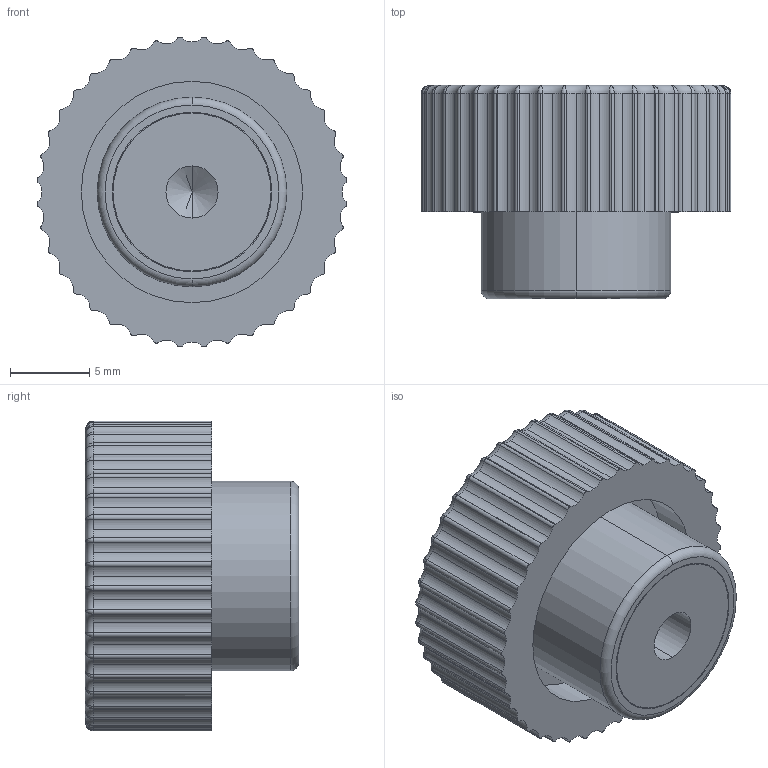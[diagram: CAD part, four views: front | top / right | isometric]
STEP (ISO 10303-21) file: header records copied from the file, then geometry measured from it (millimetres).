
FILE_DESCRIPTION (( 'STEP AP203' ), '1' );
FILE_NAME ('AP-2031-20-M4.STEP', '2015-11-23T10:46:56', ( '' ), ( '' ), 'SwSTEP 2.0', 'SolidWorks 2014', '' );
FILE_SCHEMA (( 'CONFIG_CONTROL_DESIGN' ));
Length unit declared in the file: millimetre
Products named in the file (1): AP-2031-20-M4
Bounding box: 19.61 x 13.5 x 19.61 mm (x, y, z)
Volume: 2417.3 mm3; surface area: 2481.7 mm2
Topology: 2 solids, 2 shells, 253 faces, 644 edges, 359 vertices
Faces by surface type: cylinder 146, torus 55, bspline 40, plane 8, cone 2, sphere 2
Entity records: 8913 total; most frequent: CARTESIAN_POINT 3021, DIRECTION 1320, ORIENTED_EDGE 1204, EDGE_CURVE 602, AXIS2_PLACEMENT_3D 586, CIRCLE 372, VERTEX_POINT 359, EDGE_LOOP 261
